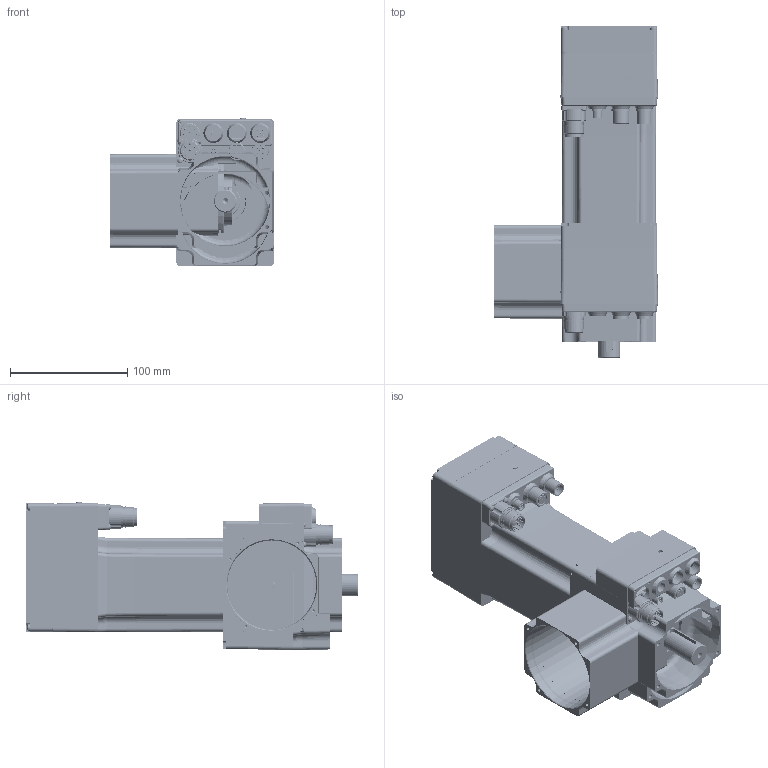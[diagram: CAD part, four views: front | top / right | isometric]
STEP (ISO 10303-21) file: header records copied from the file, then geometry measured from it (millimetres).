
FILE_DESCRIPTION( ( 'Unknown' ), '1' );
FILE_NAME( 'C:/Users/dotti/Desktop/Q0B218/Q0B218 2,8.stp', 'Unknown', ( 'Unknown' ), ( 'Unknown' ), 'PSStep 14.0', 'Unknown', ' ' );
FILE_SCHEMA( ( 'AUTOMOTIVE_DESIGN { 1 0 10303 214 1 1 1 1 }' ) );
Length unit declared in the file: millimetre
Products named in the file (44): Assem1; T00246; 005117000974; N54236; CN M23 PAN-POT BEGA 906 4+5p; VECST-8112 M  2,5 x 12; G00030_profibus; G00029_Profibus; N33250; LI-PIA   6x6 x 30; CUSC_15_32_9_6002_ZZ; CUSC_20_42_12_6004_ZZ; a-ela  20; Anello-elastico-chiuso  42; N09288; Anello-elastico-chiuso  32; Vite a brugola testa cil 8,8 -  M  3 x 40; Vite a brugola testa cil 8,8 -  M  3 x 40-oa0; Vite a brugola testa cil 8,8 -  M  3 x 40-oa1; Vite a brugola testa cil 8,8 -  M  3 x 40-oa2; Vite a brugola testa cil 8,8 -  M  3 x 25; Vite a brugola testa cil 8,8 -  M  3 x 25-oa3; Vite a brugola testa cil 8,8 -  M  3 x 25-oa4; Vite a brugola testa cil 8,8 -  M  3 x 25-oa5; N35217; VECST-8112 M  3 x 25; 003016000054; N01H07; N54239
Bounding box: 139.5 x 283.14 x 126.21 mm (x, y, z)
Volume: 1173195.1 mm3; surface area: 565097.3 mm2
Topology: 100 solids, 104 shells, 7423 faces, 20231 edges, 13259 vertices
Faces by surface type: plane 4042, cylinder 2539, bspline 283, cone 282, torus 209, sphere 68
Full cylindrical faces by diameter (mm): 1 x39, 1.5 x72, 2 x4, 2.4 x24, 2.459 x40, 2.5 x17, 2.7 x12, 3 x21, 3.242 x2, 3.5 x40, 4 x5, 4.2 x2, 4.917 x2, 5 x11, 5.5 x18, 6 x26, 8 x17, 8.5 x9, 8.75 x3, 9 x6, 10 x3, 11 x15, 11.9 x6, 12 x11, 14 x6, 14.4 x3, 14.5 x3, 14.99 x2, 15 x4, 15.6 x3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
Entity records: 105084 total; most frequent: CARTESIAN_POINT 27333, ORIENTED_EDGE 13436, DIRECTION 13317, EDGE_CURVE 6718, AXIS2_PLACEMENT_3D 4787, VERTEX_POINT 4594, LINE 3743, VECTOR 3743
